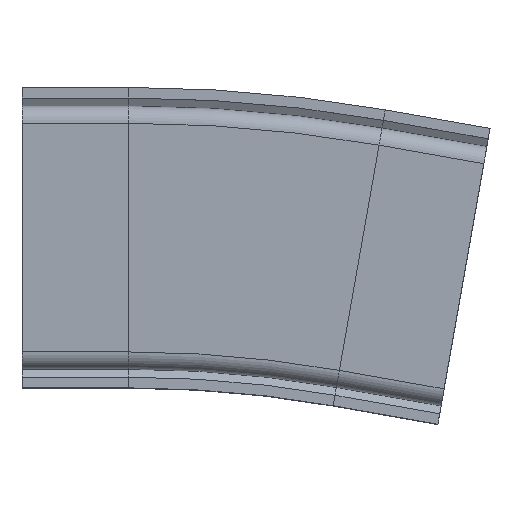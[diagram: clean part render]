
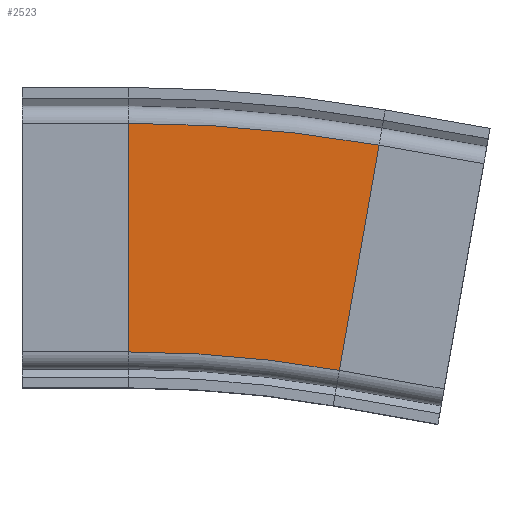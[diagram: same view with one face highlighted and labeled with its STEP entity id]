
A CAD part, top view. The second image highlights one B-rep face of the part: STEP entity #2523.
In plain terms, the highlighted planar face has unit normal (0, 0, 1).
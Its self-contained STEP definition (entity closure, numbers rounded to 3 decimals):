
#116 = FACE_OUTER_BOUND ( 'NONE', #2596, .T. ) ;
#270 = CARTESIAN_POINT ( 'NONE',  ( 40., -500., 42.5 ) ) ;
#401 = DIRECTION ( 'NONE',  ( 1., 0., 0. ) ) ;
#613 = AXIS2_PLACEMENT_3D ( 'NONE', #270, #4706, #401 ) ;
#931 = CARTESIAN_POINT ( 'NONE',  ( 119.357, -49.943, 42.5 ) ) ;
#1029 = CARTESIAN_POINT ( 'NONE',  ( 40., -500., 42.5 ) ) ;
#1170 = CARTESIAN_POINT ( 'NONE',  ( 40., -43., 42.5 ) ) ;
#1253 = EDGE_CURVE ( 'NONE', #3192, #3385, #2747, .T. ) ;
#1457 = VECTOR ( 'NONE', #1756, 1000. ) ;
#1756 = DIRECTION ( 'NONE',  ( 0., -1., 0. ) ) ;
#1820 = EDGE_CURVE ( 'NONE', #4412, #3385, #5067, .T. ) ;
#1954 = CARTESIAN_POINT ( 'NONE',  ( 119.357, -49.943, 42.5 ) ) ;
#2190 = CARTESIAN_POINT ( 'NONE',  ( 40., 43., 42.5 ) ) ;
#2215 = PLANE ( 'NONE',  #4758 ) ;
#2284 = AXIS2_PLACEMENT_3D ( 'NONE', #1029, #4928, #4051 ) ;
#2364 = ORIENTED_EDGE ( 'NONE', *, *, #4582, .T. ) ;
#2523 = ADVANCED_FACE ( 'NONE', ( #116 ), #2215, .F. ) ;
#2596 = EDGE_LOOP ( 'NONE', ( #3857, #5187, #4527, #2364 ) ) ;
#2644 = DIRECTION ( 'NONE',  ( 0., 0., -1. ) ) ;
#2657 = CARTESIAN_POINT ( 'NONE',  ( 119.357, -49.943, 42.5 ) ) ;
#2747 = LINE ( 'NONE', #5198, #1457 ) ;
#3192 = VERTEX_POINT ( 'NONE', #2190 ) ;
#3385 = VERTEX_POINT ( 'NONE', #1170 ) ;
#3857 = ORIENTED_EDGE ( 'NONE', *, *, #1253, .T. ) ;
#3966 = DIRECTION ( 'NONE',  ( -1., 0., 0. ) ) ;
#4051 = DIRECTION ( 'NONE',  ( 1., 0., 0. ) ) ;
#4316 = CARTESIAN_POINT ( 'NONE',  ( 134.291, 34.751, 42.5 ) ) ;
#4412 = VERTEX_POINT ( 'NONE', #1954 ) ;
#4417 = DIRECTION ( 'NONE',  ( 0.174, 0.985, 0. ) ) ;
#4527 = ORIENTED_EDGE ( 'NONE', *, *, #4874, .T. ) ;
#4582 = EDGE_CURVE ( 'NONE', #4646, #3192, #5200, .T. ) ;
#4585 = LINE ( 'NONE', #2657, #5184 ) ;
#4646 = VERTEX_POINT ( 'NONE', #4316 ) ;
#4706 = DIRECTION ( 'NONE',  ( 0., 0., 1. ) ) ;
#4758 = AXIS2_PLACEMENT_3D ( 'NONE', #931, #2644, #3966 ) ;
#4874 = EDGE_CURVE ( 'NONE', #4412, #4646, #4585, .T. ) ;
#4928 = DIRECTION ( 'NONE',  ( 0., 0., 1. ) ) ;
#5067 = CIRCLE ( 'NONE', #2284, 457. ) ;
#5184 = VECTOR ( 'NONE', #4417, 1000. ) ;
#5187 = ORIENTED_EDGE ( 'NONE', *, *, #1820, .F. ) ;
#5198 = CARTESIAN_POINT ( 'NONE',  ( 40., 0., 42.5 ) ) ;
#5200 = CIRCLE ( 'NONE', #613, 543. ) ;
